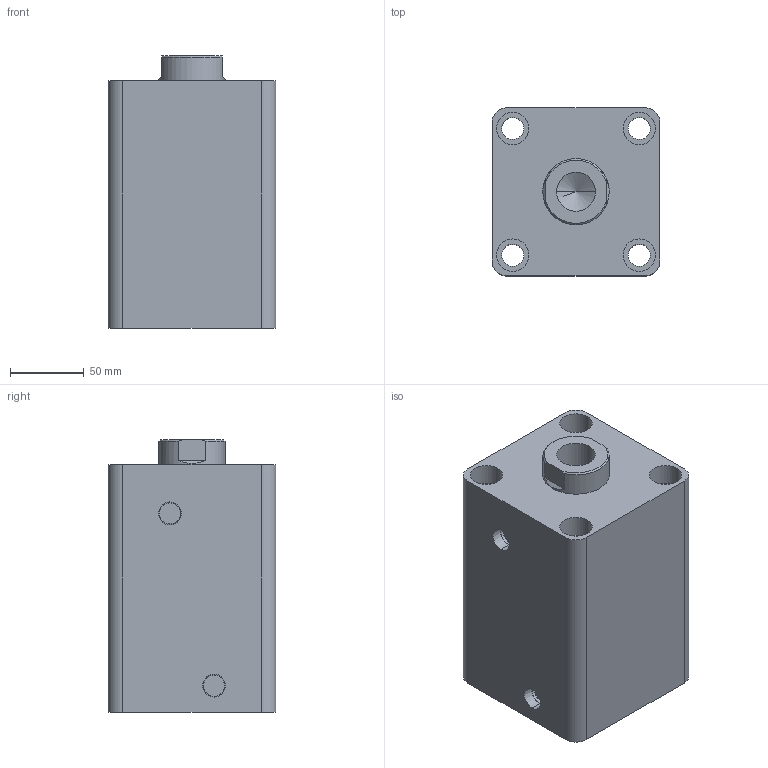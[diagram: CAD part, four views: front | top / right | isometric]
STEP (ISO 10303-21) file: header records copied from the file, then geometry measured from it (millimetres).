
FILE_DESCRIPTION (( 'STEP AP203' ), '1' );
FILE_NAME ('HTB-SD80-90N.STEP', '2019-10-07T08:41:27', ( '微软用户' ), ( '微软中国' ), 'SwSTEP 2.0', 'SolidWorks 2012', '' );
FILE_SCHEMA (( 'CONFIG_CONTROL_DESIGN' ));
Length unit declared in the file: millimetre
Products named in the file (3): HTB-SD80-90N; HTB-SD80-90N活塞杆; HTB-SD80-90掛极
Assembly tree (2 placements, depth 2):
  HTB-SD80-90N
    HTB-SD80-90掛极
    HTB-SD80-90N活塞杆
Bounding box: 114 x 114 x 185 mm (x, y, z)
Volume: 1718258.1 mm3; surface area: 215344.3 mm2
Topology: 2 solids, 2 shells, 83 faces, 184 edges, 119 vertices
Faces by surface type: cylinder 42, plane 27, cone 8, torus 6
Entity records: 2655 total; most frequent: DIRECTION 456, CARTESIAN_POINT 417, ORIENTED_EDGE 364, AXIS2_PLACEMENT_3D 194, EDGE_CURVE 182, VERTEX_POINT 119, EDGE_LOOP 107, CIRCLE 106
